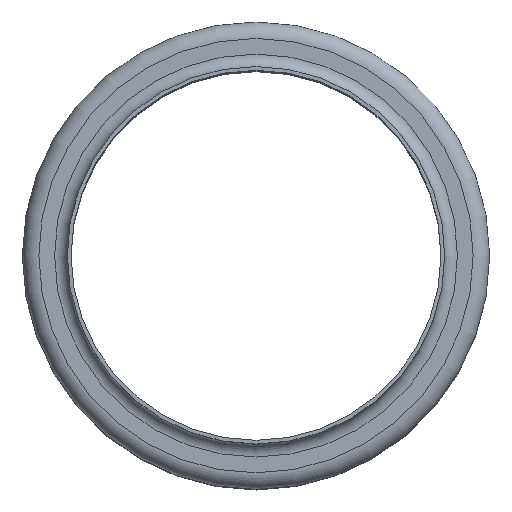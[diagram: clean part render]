
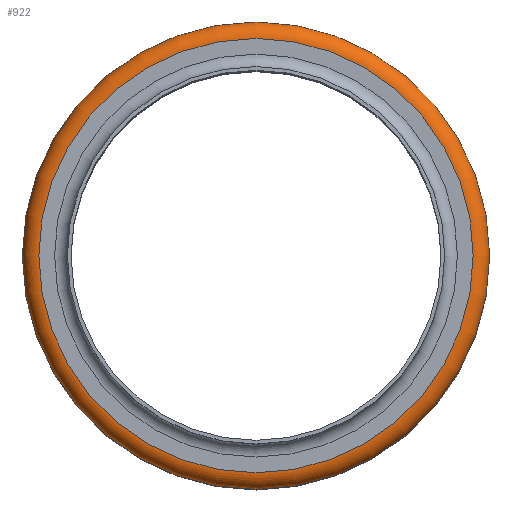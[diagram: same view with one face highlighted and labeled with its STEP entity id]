
A CAD part, top view. The second image highlights one B-rep face of the part: STEP entity #922.
In plain terms, the highlighted toroidal (fillet/blend) face has major radius 35.414 mm and minor radius 2.686 mm.
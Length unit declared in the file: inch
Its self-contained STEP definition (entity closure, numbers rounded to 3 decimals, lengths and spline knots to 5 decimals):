
#63=TOROIDAL_SURFACE('',#1113,1.39425,0.10575);
#166=FACE_OUTER_BOUND('',#273,.T.);
#273=EDGE_LOOP('',(#774,#775,#776,#777));
#386=CIRCLE('',#1112,1.39425);
#387=CIRCLE('',#1114,1.39425);
#388=CIRCLE('',#1115,0.10575);
#467=VERTEX_POINT('',#1738);
#468=VERTEX_POINT('',#1741);
#572=EDGE_CURVE('',#467,#467,#386,.T.);
#573=EDGE_CURVE('',#468,#468,#387,.T.);
#574=EDGE_CURVE('',#468,#467,#388,.T.);
#774=ORIENTED_EDGE('',*,*,#573,.F.);
#775=ORIENTED_EDGE('',*,*,#574,.T.);
#776=ORIENTED_EDGE('',*,*,#572,.T.);
#777=ORIENTED_EDGE('',*,*,#574,.F.);
#922=ADVANCED_FACE('',(#166),#63,.T.);
#1112=AXIS2_PLACEMENT_3D('',#1739,#1450,#1451);
#1113=AXIS2_PLACEMENT_3D('',#1740,#1452,#1453);
#1114=AXIS2_PLACEMENT_3D('',#1742,#1454,#1455);
#1115=AXIS2_PLACEMENT_3D('',#1743,#1456,#1457);
#1450=DIRECTION('center_axis',(0.,0.,-1.));
#1451=DIRECTION('ref_axis',(1.,0.,0.));
#1452=DIRECTION('center_axis',(0.,0.,-1.));
#1453=DIRECTION('ref_axis',(-1.,0.,0.));
#1454=DIRECTION('center_axis',(0.,0.,-1.));
#1455=DIRECTION('ref_axis',(1.,0.,0.));
#1456=DIRECTION('center_axis',(0.,-1.,0.));
#1457=DIRECTION('ref_axis',(1.,0.,0.));
#1738=CARTESIAN_POINT('',(1.39425,0.,-0.08175));
#1739=CARTESIAN_POINT('Origin',(0.,0.,-0.08175));
#1740=CARTESIAN_POINT('Origin',(0.,0.,-0.1875));
#1741=CARTESIAN_POINT('',(1.39425,0.,-0.29325));
#1742=CARTESIAN_POINT('Origin',(0.,0.,-0.29325));
#1743=CARTESIAN_POINT('Origin',(1.39425,0.,-0.1875));
